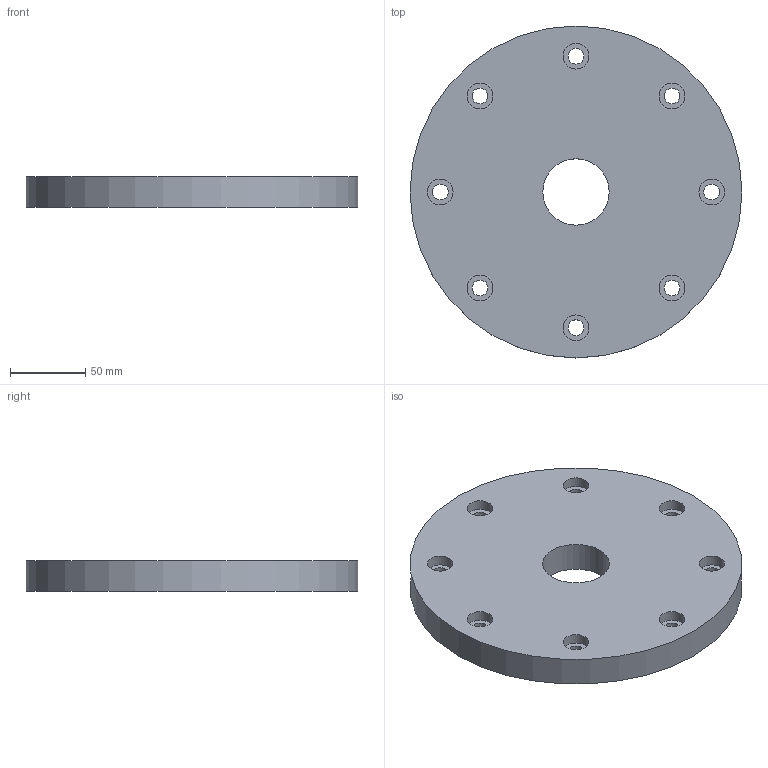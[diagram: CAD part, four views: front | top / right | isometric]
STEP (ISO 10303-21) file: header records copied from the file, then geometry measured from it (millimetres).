
FILE_DESCRIPTION(('Open CASCADE Model'),'2;1');
FILE_NAME('Open CASCADE Shape Model','2026-10-17T16:45:02',('Author'),( 'Open CASCADE'),'Open CASCADE STEP processor 8.0','build123d', 'Unknown');
FILE_SCHEMA(('AUTOMOTIVE_DESIGN { 1 0 10303 214 1 1 1 1 }'));
Length unit declared in the file: millimetre
Products named in the file (1): COMPOUND
Bounding box: 220 x 220 x 20 mm (x, y, z)
Volume: 708138.5 mm3; surface area: 94609.1 mm2
Topology: 1 solids, 1 shells, 28 faces, 54 edges, 36 vertices
Faces by surface type: cylinder 18, plane 10
Full cylindrical faces by diameter (mm): 10.5 x8, 17 x8, 44 x1, 220 x1
Entity records: 1482 total; most frequent: DIRECTION 256, CARTESIAN_POINT 227, ORIENTED_EDGE 108, PCURVE 108, DEFINITIONAL_REPRESENTATION 108, LINE 90, VECTOR 90, CIRCLE 72
